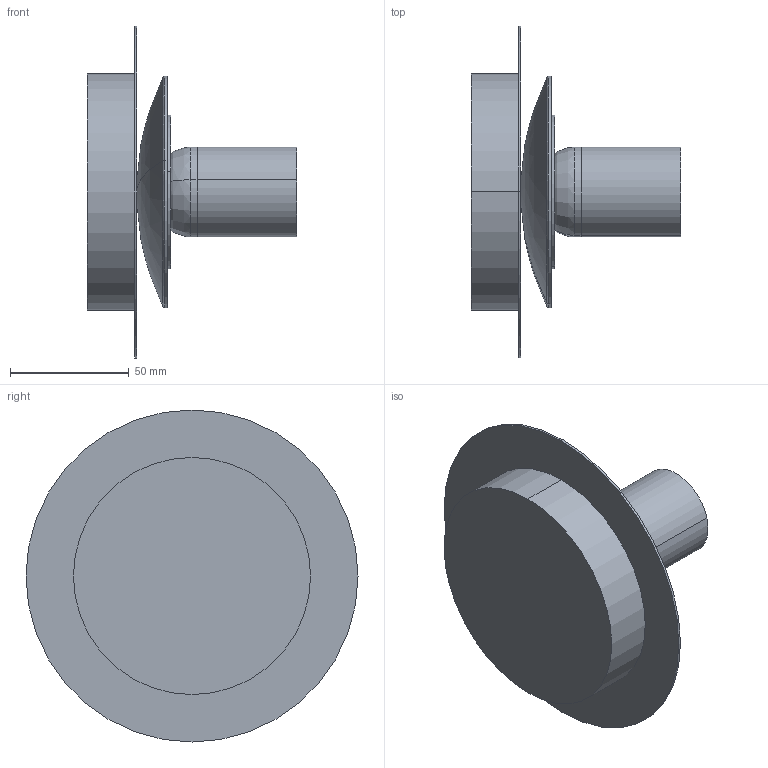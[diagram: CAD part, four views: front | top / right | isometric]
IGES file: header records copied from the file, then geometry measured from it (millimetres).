
Start section: SolidWorks IGES file using analytic representation for surfaces
Global section: file name: \\192.168.111.232\grupos\DISENYO\DESARROLLO DE PRODUCTO\PARMA-3946\PARMA - P3946082 - PLAFON 1 LUZ\PARMA - P3946082 - PLAFON 1 LUZ.IGS; native system: SolidWorks 2025; preprocessor: SolidWorks 2025; author: o.domenech; date: 260121.135433; units: millimetre
Bounding box: 88.45 x 140 x 140 mm (x, y, z)
Volume: 240865.5 mm3; surface area: 69075 mm2
Topology: 3 solids, 3 shells, 67 faces, 489 edges, 579 vertices
Faces by surface type: revolution 49, plane 14, bspline 4
